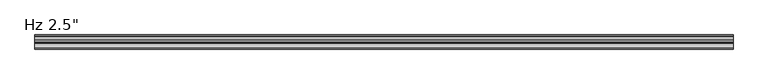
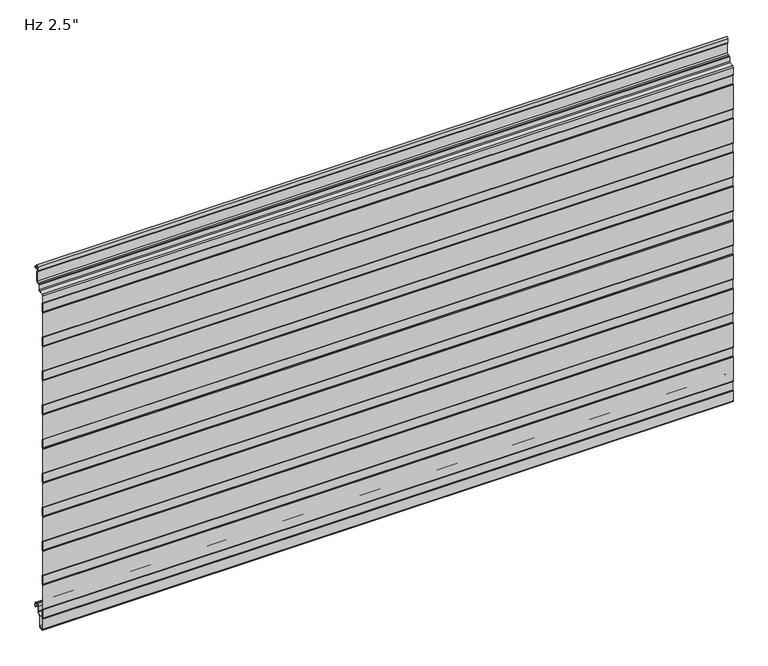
"""IFC4 building model written with IfcOpenShell, lengths in millimetres: plate geometry."""

import ifcopenshell
import ifcopenshell.guid

model = None  # the IFC model being written
_history = None  # IfcOwnerHistory: only IFC2X3 demands one
_inside = {}  # id of a spatial element -> (the spatial element, [elements in it])
_under = {}  # id of a project, library or spatial element -> (it, [spatial elements below it])
_declared = {}  # id of a project -> (the project, [libraries it declares])
_typed = {}  # id of a type object -> (the type object, [elements of that type])
_made_of = {}  # id of a material, layer set ... -> (it, [elements and type objects made of it])


def new_model(schema):
    """Start an empty IFC model of exactly this schema.

    Asked for "IFC4X3", IfcOpenShell would pick the latest addendum, in which some entities
    have other attributes; the version numbers below select the first issue.
    IFC2X3 requires an IfcOwnerHistory on every rooted entity: one is made here for all.
    """
    global model, _history
    if schema == "IFC4X3":
        model = ifcopenshell.file(schema_version=(4, 3, 0, 0))
    else:
        model = ifcopenshell.file(schema=schema)
    _inside.clear()
    _under.clear()
    _declared.clear()
    _typed.clear()
    _made_of.clear()
    _history = None
    if model.schema == "IFC2X3":
        org = make("IfcOrganization", Name="unknown")
        user = make(
            "IfcPersonAndOrganization",
            ThePerson=make("IfcPerson", FamilyName="unknown"),
            TheOrganization=org,
        )
        app = make(
            "IfcApplication",
            ApplicationDeveloper=org,
            Version="unknown",
            ApplicationFullName="unknown",
            ApplicationIdentifier="unknown",
        )
        _history = make(
            "IfcOwnerHistory",
            OwningUser=user,
            OwningApplication=app,
            ChangeAction="ADDED",
            CreationDate=0,
        )
    return model


def make(cls, **values):
    """One entity of the class cls with the attributes given. An attribute that is None is left unset."""
    return model.create_entity(
        cls, **{name: value for name, value in values.items() if value is not None}
    )


def rooted(cls, **values):
    """An entity with a GlobalId (a new one), such as an element, a storey or a relation."""
    return make(cls, GlobalId=ifcopenshell.guid.new(), OwnerHistory=_history, **values)


def si_unit(unit_type, name, prefix=None):
    """IfcSIUnit, for example si_unit("LENGTHUNIT", "METRE", prefix="MILLI")."""
    return make("IfcSIUnit", UnitType=unit_type, Prefix=prefix, Name=name)


def assignment(units):
    """IfcUnitAssignment: the units of a project."""
    return None if units is None else make("IfcUnitAssignment", Units=units)


def point(xyz):
    """IfcCartesianPoint."""
    return None if xyz is None else make("IfcCartesianPoint", Coordinates=xyz)


def direction(xyz):
    """IfcDirection."""
    return None if xyz is None else make("IfcDirection", DirectionRatios=xyz)


def frame(location, z_axis=None, x_axis=None):
    """IfcAxis2Placement3D, a coordinate frame: its origin and axes. An axis left out is left unset."""
    return make(
        "IfcAxis2Placement3D",
        Location=point(location),
        Axis=direction(z_axis),
        RefDirection=direction(x_axis),
    )


def frame_2d(location, x_axis=None):
    """IfcAxis2Placement2D, a coordinate frame in the plane: its origin and x axis."""
    return make(
        "IfcAxis2Placement2D", Location=point(location), RefDirection=direction(x_axis)
    )


def origin():
    """The frame at (0, 0, 0) with its axes left unset."""
    return frame((0.0, 0.0, 0.0))


def place(relative_to, where):
    """IfcLocalPlacement: puts the frame where relative to a parent placement (None: the world)."""
    return make(
        "IfcLocalPlacement", PlacementRelTo=relative_to, RelativePlacement=where
    )


def context(
    kind, dimensions, precision=None, world=None, true_north=None, identifier=None
):
    """IfcGeometricRepresentationContext, for example the 3D "Model" context."""
    return make(
        "IfcGeometricRepresentationContext",
        ContextIdentifier=identifier,
        ContextType=kind,
        CoordinateSpaceDimension=dimensions,
        Precision=precision,
        WorldCoordinateSystem=world,
        TrueNorth=true_north,
    )


def project(units=None, contexts=None):
    """IfcProject with its units and contexts."""
    return rooted(
        "IfcProject",
        Name="project",
        RepresentationContexts=contexts,
        UnitsInContext=assignment(units),
    )


def spatial(cls, under=None, at=None, **own):
    """A site, building, storey or space (cls), placed at a placement, below another one or the project."""
    s = rooted(cls, ObjectPlacement=at, **own)
    if under is not None:
        _under.setdefault(under.id(), (under, []))[1].append(s)
    return s


def polyline(points):
    """IfcPolyline through the points."""
    return make("IfcPolyline", Points=[point(p) for p in points])


def circle_curve(where, radius):
    """IfcCircle in the frame where."""
    return make("IfcCircle", Position=where, Radius=radius)


def trimmed(basis, trim1, trim2, sense, master):
    """IfcTrimmedCurve: the piece of a basis curve between two trims."""
    return make(
        "IfcTrimmedCurve",
        BasisCurve=basis,
        Trim1=trim1,
        Trim2=trim2,
        SenseAgreement=sense,
        MasterRepresentation=master,
    )


def segment(curve, same_sense, transition):
    """IfcCompositeCurveSegment."""
    return make(
        "IfcCompositeCurveSegment",
        Transition=transition,
        SameSense=same_sense,
        ParentCurve=curve,
    )


def composite_curve(segments, self_intersect=None):
    """IfcCompositeCurve: segments joined end to end."""
    return make("IfcCompositeCurve", Segments=segments, SelfIntersect=self_intersect)


def outline(outer, holes=None, kind="AREA"):
    """IfcArbitraryClosedProfileDef: a profile drawn as a closed curve; with holes, ...WithVoids."""
    if holes is None:
        return make("IfcArbitraryClosedProfileDef", ProfileType=kind, OuterCurve=outer)
    return make(
        "IfcArbitraryProfileDefWithVoids",
        ProfileType=kind,
        OuterCurve=outer,
        InnerCurves=holes,
    )


def extrude(swept, where, along, depth):
    """IfcExtrudedAreaSolid: the profile swept, set in the frame where, extruded along a direction by depth."""
    return make(
        "IfcExtrudedAreaSolid",
        SweptArea=swept,
        Position=where,
        ExtrudedDirection=direction(along),
        Depth=depth,
    )


def shape(context_of_items, identifier, shape_type, items):
    """IfcShapeRepresentation: the items that make up one representation, for example the "Body"."""
    return make(
        "IfcShapeRepresentation",
        ContextOfItems=context_of_items,
        RepresentationIdentifier=identifier,
        RepresentationType=shape_type,
        Items=items,
    )


def source(mapping_origin, context_of_items, identifier, shape_type, items):
    """IfcRepresentationMap: a shape defined once, which mapped items show again and again."""
    return make(
        "IfcRepresentationMap",
        MappingOrigin=mapping_origin,
        MappedRepresentation=shape(context_of_items, identifier, shape_type, items),
    )


def transform(
    local_origin,
    x_axis=None,
    y_axis=None,
    z_axis=None,
    scale=None,
    scale2=None,
    scale3=None,
    uniform=True,
):
    """IfcCartesianTransformationOperator3D, or its non-uniform kind. x_axis, y_axis, z_axis: its Axis1, 2, 3."""
    if uniform:
        return make(
            "IfcCartesianTransformationOperator3D",
            Axis1=direction(x_axis),
            Axis2=direction(y_axis),
            LocalOrigin=point(local_origin),
            Scale=scale,
            Axis3=direction(z_axis),
        )
    return make(
        "IfcCartesianTransformationOperator3DnonUniform",
        Axis1=direction(x_axis),
        Axis2=direction(y_axis),
        LocalOrigin=point(local_origin),
        Scale=scale,
        Axis3=direction(z_axis),
        Scale2=scale2,
        Scale3=scale3,
    )


def mapped(mapping_source, mapping_target):
    """IfcMappedItem: shows the shape of a source again, moved by a transform."""
    return make(
        "IfcMappedItem", MappingSource=mapping_source, MappingTarget=mapping_target
    )


def made_of(thing, what):
    """Note that an element or type object is made of a material, layer set ...; save() writes the relation."""
    if what is not None:
        _made_of.setdefault(what.id(), (what, []))[1].append(thing)
    return thing


def element(
    cls,
    number,
    at=None,
    inside=None,
    cuts=None,
    type_object=None,
    material=None,
    context=None,
    identifier="Body",
    shape_type=None,
    held_by="IfcProductDefinitionShape",
    body=None,
    shapes=None,
    **own,
):
    """One element of the class cls, such as IfcWall. Its Tag is "e" and its number.

    at: its placement. inside: the storey or other place that contains it. cuts: it is an
    opening in that element (IfcRelVoidsElement). A single representation is given by context,
    identifier, shape_type and body (its items); several are given by shapes. held_by: the class
    of the entity that holds the representations. save() writes the other relations.
    """
    e = rooted(cls, Tag="e%d" % number, ObjectPlacement=at, **own)
    if body is not None:
        shapes = [shape(context, identifier, shape_type, body)]
    if shapes is not None:
        e.Representation = make(held_by, Representations=shapes)
    if inside is not None:
        _inside.setdefault(inside.id(), (inside, []))[1].append(e)
    if cuts is not None:
        rooted(
            "IfcRelVoidsElement", RelatingBuildingElement=cuts, RelatedOpeningElement=e
        )
    if type_object is not None:
        _typed.setdefault(type_object.id(), (type_object, []))[1].append(e)
    return made_of(e, material)


def aggregate(whole, parts):
    """IfcRelAggregates: a whole, such as a stair, and the parts it consists of."""
    return rooted("IfcRelAggregates", RelatingObject=whole, RelatedObjects=parts)


def save(model, path):
    """Write the relations noted so far, then the file.

    IfcRelAggregates (storeys below a building ...), IfcRelContainedInSpatialStructure (elements
    in a storey), IfcRelDefinesByType, IfcRelAssociatesMaterial and IfcRelDeclares: one each for
    every whole, place, type object, material and project.
    """
    for whole, parts in _under.values():
        aggregate(whole, parts)
    for where, things in _inside.values():
        rooted(
            "IfcRelContainedInSpatialStructure",
            RelatedElements=things,
            RelatingStructure=where,
        )
    for kind, things in _typed.values():
        rooted("IfcRelDefinesByType", RelatedObjects=things, RelatingType=kind)
    for what, things in _made_of.values():
        rooted("IfcRelAssociatesMaterial", RelatedObjects=things, RelatingMaterial=what)
    for by, libraries in _declared.values():
        rooted("IfcRelDeclares", RelatingContext=by, RelatedDefinitions=libraries)
    model.write(path)


def plate_3c53f4bd(model_context):
    return source(origin(), model_context, "Body", "SweptSolid", [
        extrude(outline(composite_curve([segment(trimmed(circle_curve(frame_2d((-62.0998717, -10.6415934)), 1.3998661), [point((-63.4997378, -10.6415934))], [point((-63.0324955, -9.5976403))], False, "CARTESIAN"), True, "CONTINUOUS"), segment(polyline([(-63.0324955, -9.5976403), (-62.2997693, -8.8649141), (-62.2997693, 10.0260713), (-63.0327349, 10.7590369)]), True, "CONTINUOUS"), segment(trimmed(circle_curve(frame_2d((-62.1000237, 11.8030877)), 1.3999972), [point((-63.0327349, 10.7590369))], [point((-63.5, 11.810741))], False, "CARTESIAN"), True, "CONTINUOUS"), segment(polyline([(-63.5, 11.810741), (-63.5, 65.5582542)]), True, "CONTINUOUS"), segment(trimmed(circle_curve(frame_2d((-62.1000028, 65.5582542)), 1.3999972), [point((-63.5, 65.5582542))], [point((-63.032714, 66.602305))], False, "CARTESIAN"), True, "CONTINUOUS"), segment(polyline([(-63.032714, 66.602305), (-62.2997693, 67.3352497), (-62.2997693, 86.2259189), (-63.0327349, 86.9588845)]), True, "CONTINUOUS"), segment(trimmed(circle_curve(frame_2d((-62.1000237, 88.0029353)), 1.3999972), [point((-63.0327349, 86.9588845))], [point((-63.5, 88.0105886))], False, "CARTESIAN"), True, "CONTINUOUS"), segment(polyline([(-63.5, 88.0105886), (-63.5, 141.7581018)]), True, "CONTINUOUS"), segment(trimmed(circle_curve(frame_2d((-62.1000028, 141.7581018)), 1.3999972), [point((-63.5, 141.7581018))], [point((-63.032714, 142.8021526))], False, "CARTESIAN"), True, "CONTINUOUS"), segment(polyline([(-63.032714, 142.8021526), (-62.2997693, 143.5350973), (-62.2997693, 162.4257665), (-63.0327349, 163.1587321)]), True, "CONTINUOUS"), segment(trimmed(circle_curve(frame_2d((-62.1000237, 164.2027829)), 1.3999972), [point((-63.0327349, 163.1587321))], [point((-63.5, 164.2104362))], False, "CARTESIAN"), True, "CONTINUOUS"), segment(polyline([(-63.5, 164.2104362), (-63.5, 217.9579494)]), True, "CONTINUOUS"), segment(trimmed(circle_curve(frame_2d((-62.1000028, 217.9579494)), 1.3999972), [point((-63.5, 217.9579494))], [point((-63.032714, 219.0020002))], False, "CARTESIAN"), True, "CONTINUOUS"), segment(polyline([(-63.032714, 219.0020002), (-62.2997693, 219.7349449), (-62.2997693, 238.6256141), (-63.0327349, 239.3585797)]), True, "CONTINUOUS"), segment(trimmed(circle_curve(frame_2d((-62.1000237, 240.4026305)), 1.3999972), [point((-63.0327349, 239.3585797))], [point((-63.5, 240.4102838))], False, "CARTESIAN"), True, "CONTINUOUS"), segment(polyline([(-63.5, 240.4102838), (-63.5, 294.157797)]), True, "CONTINUOUS"), segment(trimmed(circle_curve(frame_2d((-62.1000028, 294.157797)), 1.3999972), [point((-63.5, 294.157797))], [point((-63.032714, 295.2018478))], False, "CARTESIAN"), True, "CONTINUOUS"), segment(polyline([(-63.032714, 295.2018478), (-62.2997693, 295.9347925), (-62.2997693, 314.8254617), (-63.0327349, 315.5584273)]), True, "CONTINUOUS"), segment(trimmed(circle_curve(frame_2d((-62.1000237, 316.6024781)), 1.3999972), [point((-63.0327349, 315.5584273))], [point((-63.5, 316.6101314))], False, "CARTESIAN"), True, "CONTINUOUS"), segment(polyline([(-63.5, 316.6101314), (-63.5, 370.3576446)]), True, "CONTINUOUS"), segment(trimmed(circle_curve(frame_2d((-62.1000028, 370.3576446)), 1.3999972), [point((-63.5, 370.3576446))], [point((-63.032714, 371.4016954))], False, "CARTESIAN"), True, "CONTINUOUS"), segment(polyline([(-63.032714, 371.4016954), (-62.2997693, 372.1346401), (-62.2997693, 391.0253093), (-63.0327349, 391.7582749)]), True, "CONTINUOUS"), segment(trimmed(circle_curve(frame_2d((-62.1000237, 392.8023257)), 1.3999972), [point((-63.0327349, 391.7582749))], [point((-63.5, 392.809979))], False, "CARTESIAN"), True, "CONTINUOUS"), segment(polyline([(-63.5, 392.809979), (-63.5, 446.5574922)]), True, "CONTINUOUS"), segment(trimmed(circle_curve(frame_2d((-62.1000028, 446.5574922)), 1.3999972), [point((-63.5, 446.5574922))], [point((-63.032714, 447.601543))], False, "CARTESIAN"), True, "CONTINUOUS"), segment(polyline([(-63.032714, 447.601543), (-62.2997693, 448.3344877), (-62.2997693, 467.2251569), (-63.0327349, 467.9581225)]), True, "CONTINUOUS"), segment(trimmed(circle_curve(frame_2d((-62.1000237, 469.0021733)), 1.3999972), [point((-63.0327349, 467.9581225))], [point((-63.5, 469.0098266))], False, "CARTESIAN"), True, "CONTINUOUS"), segment(polyline([(-63.5, 469.0098266), (-63.5, 522.7573398)]), True, "CONTINUOUS"), segment(trimmed(circle_curve(frame_2d((-62.1000028, 522.7573398)), 1.3999972), [point((-63.5, 522.7573398))], [point((-63.032714, 523.8013906))], False, "CARTESIAN"), True, "CONTINUOUS"), segment(polyline([(-63.032714, 523.8013906), (-62.2997693, 524.5343353), (-62.2997693, 543.4250045), (-63.0327349, 544.1579701)]), True, "CONTINUOUS"), segment(trimmed(circle_curve(frame_2d((-62.1000237, 545.2020209)), 1.3999972), [point((-63.0327349, 544.1579701))], [point((-63.5, 545.2096742))], False, "CARTESIAN"), True, "CONTINUOUS"), segment(polyline([(-63.5, 545.2096742), (-63.5, 598.9571874)]), True, "CONTINUOUS"), segment(trimmed(circle_curve(frame_2d((-62.1000028, 598.9571874)), 1.3999972), [point((-63.5, 598.9571874))], [point((-63.032714, 600.0012382))], False, "CARTESIAN"), True, "CONTINUOUS"), segment(polyline([(-63.032714, 600.0012382), (-62.2997693, 600.7341829), (-62.2997693, 619.6248521), (-63.0327349, 620.3578177)]), True, "CONTINUOUS"), segment(trimmed(circle_curve(frame_2d((-62.1000237, 621.4018685)), 1.3999972), [point((-63.0327349, 620.3578177))], [point((-63.5, 621.4095218))], False, "CARTESIAN"), True, "CONTINUOUS"), segment(polyline([(-63.5, 621.4095218), (-63.5, 675.157035)]), True, "CONTINUOUS"), segment(trimmed(circle_curve(frame_2d((-62.1000028, 675.157035)), 1.3999972), [point((-63.5, 675.157035))], [point((-63.032714, 676.2010858))], False, "CARTESIAN"), True, "CONTINUOUS"), segment(polyline([(-63.032714, 676.2010858), (-62.2997693, 676.9340305), (-62.2997693, 695.8246997), (-63.0327349, 696.5576653)]), True, "CONTINUOUS"), segment(trimmed(circle_curve(frame_2d((-62.1000237, 697.6017161)), 1.3999972), [point((-63.0327349, 696.5576653))], [point((-63.4990984, 697.6525313))], False, "CARTESIAN"), True, "CONTINUOUS"), segment(polyline([(-63.4990984, 697.6525313), (-63.4990984, 713.5384359)]), True, "CONTINUOUS"), segment(trimmed(circle_curve(frame_2d((-60.5491043, 713.5384359)), 2.9499941), [point((-63.4990984, 713.5384359))], [point((-60.8062132, 716.4772044))], False, "CARTESIAN"), True, "CONTINUOUS"), segment(polyline([(-60.8062132, 716.4772044), (-52.3419168, 717.2177344)]), True, "CONTINUOUS"), segment(trimmed(circle_curve(frame_2d((-52.5188426, 719.2400056)), 2.0299959), [point((-52.3419168, 717.2177344))], [point((-50.4914567, 719.3429135))], True, "CARTESIAN"), True, "CONTINUOUS"), segment(polyline([(-50.4914567, 719.3429135), (-50.4914567, 729.4595941)]), True, "CONTINUOUS"), segment(trimmed(circle_curve(frame_2d((-48.5423033, 729.4595941)), 1.9491534), [point((-50.4914567, 729.4595941))], [point((-48.5423033, 731.4087475))], False, "CARTESIAN"), True, "CONTINUOUS"), segment(polyline([(-48.5423033, 731.4087475), (-45.4009036, 731.4087475)]), True, "CONTINUOUS"), segment(trimmed(circle_curve(frame_2d((-45.4009036, 734.4087415)), 2.999994), [point((-45.4009036, 731.4087475))], [point((-42.4009096, 734.4087415))], True, "CARTESIAN"), True, "CONTINUOUS"), segment(polyline([(-42.4009096, 734.4087415), (-42.4009096, 755.0122013), (-43.6467537, 755.7314897)]), True, "CONTINUOUS"), segment(trimmed(circle_curve(frame_2d((-42.9217552, 756.987224)), 1.4499971), [point((-43.6467537, 755.7314897))], [point((-44.3709833, 757.0344401))], False, "CARTESIAN"), True, "CONTINUOUS"), segment(polyline([(-44.3709833, 757.0344401), (-44.026075, 765.7463704)]), True, "CONTINUOUS"), segment(trimmed(circle_curve(frame_2d((-40.9266291, 765.6236622)), 3.1018739), [point((-44.026075, 765.7463704))], [point((-37.8275082, 765.7543204))], False, "CARTESIAN"), True, "CONTINUOUS"), segment(polyline([(-37.8275082, 765.7543204), (-37.5837214, 761.7587)]), True, "CONTINUOUS"), segment(trimmed(circle_curve(frame_2d((-36.7434917, 761.8099653)), 0.8417922), [point((-37.5837214, 761.7587))], [point((-36.7729389, 760.9686884))], True, "CARTESIAN"), True, "CONTINUOUS"), segment(polyline([(-36.7729389, 760.9686884), (-34.0025061, 760.9686884), (-34.0025061, 759.9686884), (-36.7870527, 759.9686884)]), True, "CONTINUOUS"), segment(trimmed(circle_curve(frame_2d((-36.7434917, 761.8099653)), 1.8417922), [point((-36.7870527, 759.9686884))], [point((-38.5818653, 761.6977997))], False, "CARTESIAN"), True, "CONTINUOUS"), segment(polyline([(-38.5818653, 761.6977997), (-38.8262802, 765.7037148)]), True, "CONTINUOUS"), segment(trimmed(circle_curve(frame_2d((-40.9266291, 765.6236622)), 2.1018739), [point((-38.8262802, 765.7037148))], [point((-43.0268578, 765.706811))], True, "CARTESIAN"), True, "CONTINUOUS"), segment(polyline([(-43.0268578, 765.706811), (-43.3821181, 756.7334028), (-41.4009096, 755.5895515), (-41.4009096, 734.4087415)]), True, "CONTINUOUS"), segment(trimmed(circle_curve(frame_2d((-45.4009036, 734.4087415)), 3.999994), [point((-41.4009096, 734.4087415))], [point((-45.4009036, 730.4087475))], False, "CARTESIAN"), True, "CONTINUOUS"), segment(polyline([(-45.4009036, 730.4087475), (-48.5423033, 730.4087475)]), True, "CONTINUOUS"), segment(trimmed(circle_curve(frame_2d((-48.5423033, 729.4595941)), 0.9491534), [point((-48.5423033, 730.4087475))], [point((-49.4914567, 729.4595941))], True, "CARTESIAN"), True, "CONTINUOUS"), segment(polyline([(-49.4914567, 729.4595941), (-49.4914567, 719.3657441)]), True, "CONTINUOUS"), segment(trimmed(circle_curve(frame_2d((-52.5188426, 719.2400056)), 3.0299959), [point((-49.4914567, 719.3657441))], [point((-52.254761, 716.2215397))], False, "CARTESIAN"), True, "CONTINUOUS"), segment(polyline([(-52.254761, 716.2215397), (-60.7190575, 715.4810097)]), True, "CONTINUOUS"), segment(trimmed(circle_curve(frame_2d((-60.5491043, 713.5384359)), 1.9499941), [point((-60.7190575, 715.4810097))], [point((-62.4990984, 713.5384359))], True, "CARTESIAN"), True, "CONTINUOUS"), segment(polyline([(-62.4990984, 713.5384359), (-62.4990984, 697.4396652), (-61.2997693, 696.2403361), (-61.2997693, 676.5209236), (-62.5, 675.3206929), (-62.5, 621.2405611), (-61.2997693, 620.0403304), (-61.2997693, 600.3209179), (-62.5, 599.1206872), (-62.5, 545.0405554), (-61.2997693, 543.8403247), (-61.2997693, 524.1209122), (-62.5, 522.9206815), (-62.5, 468.8405497), (-61.2997693, 467.640319), (-61.2997693, 447.9209065), (-62.5, 446.7206758), (-62.5, 392.640544), (-61.2997693, 391.4403133), (-61.2997693, 371.7209008), (-62.5, 370.5206701), (-62.5, 316.4405383), (-61.2997693, 315.2403076), (-61.2997693, 295.5208951), (-62.5, 294.3206644), (-62.5, 240.2405326), (-61.2997693, 239.0403019), (-61.2997693, 219.3208894), (-62.5, 218.1206587), (-62.5, 164.0405269), (-61.2997693, 162.8402962), (-61.2997693, 143.1208837), (-62.5, 141.920653), (-62.5, 87.8405213), (-61.2997693, 86.6402905), (-61.2997693, 66.920878), (-62.5, 65.7206473), (-62.5, 11.6405156), (-61.2997693, 10.4402849), (-61.2997693, -9.2791277), (-62.4997378, -10.4790962), (-62.4997378, -32.4521176)]), True, "CONTINUOUS"), segment(trimmed(circle_curve(frame_2d((-59.9294985, -32.4521176)), 2.5702393), [point((-62.4997378, -32.4521176))], [point((-59.7054129, -35.0125699))], True, "CARTESIAN"), True, "CONTINUOUS"), segment(polyline([(-59.7054129, -35.0125699), (-54.723592, -34.5765709)]), True, "CONTINUOUS"), segment(trimmed(circle_curve(frame_2d((-55.2049826, -31.9198392)), 2.6999926), [point((-54.723592, -34.5765709))], [point((-52.50499, -31.9198392))], True, "CARTESIAN"), True, "CONTINUOUS"), segment(polyline([(-52.50499, -31.9198392), (-52.50499, -9.8247096), (-47.0029189, -4.3226385)]), True, "CONTINUOUS"), segment(trimmed(circle_curve(frame_2d((-48.2049966, -3.1205608)), 1.6999946), [point((-47.0029189, -4.3226385))], [point((-46.505002, -3.1205608))], True, "CARTESIAN"), True, "CONTINUOUS"), segment(polyline([(-46.505002, -3.1205608), (-46.505002, 8.6903283)]), True, "CONTINUOUS"), segment(trimmed(circle_curve(frame_2d((-43.1550067, 8.6903283)), 3.3499953), [point((-46.505002, 8.6903283))], [point((-43.1550067, 12.0403236))], False, "CARTESIAN"), True, "CONTINUOUS"), segment(polyline([(-43.1550067, 12.0403236), (-38.7550155, 12.0403236)]), True, "CONTINUOUS"), segment(trimmed(circle_curve(frame_2d((-38.7550155, 8.6903283)), 3.3499953), [point((-38.7550155, 12.0403236))], [point((-35.4050202, 8.6903283))], False, "CARTESIAN"), True, "CONTINUOUS"), segment(polyline([(-35.4050202, 8.6903283), (-35.4050202, 5.9912173), (-34.0065413, 5.9912173), (-34.0065413, 2.2328239)]), True, "CONTINUOUS"), segment(trimmed(circle_curve(frame_2d((-35.206538, 2.2313092)), 1.1999976), [point((-34.0065413, 2.2328239))], [point((-35.1760161, 1.0316999))], False, "CARTESIAN"), True, "CONTINUOUS"), segment(trimmed(circle_curve(frame_2d((-35.206538, 2.2313092)), 1.1999976), [point((-35.1760161, 1.0316999))], [point((-36.4050202, 2.1710221))], False, "CARTESIAN"), True, "CONTINUOUS"), segment(polyline([(-36.4050202, 2.1710221), (-36.4050202, 8.6903283)]), True, "CONTINUOUS"), segment(trimmed(circle_curve(frame_2d((-38.7550155, 8.6903283)), 2.3499953), [point((-36.4050202, 8.6903283))], [point((-38.7550155, 11.0403236))], True, "CARTESIAN"), True, "CONTINUOUS"), segment(polyline([(-38.7550155, 11.0403236), (-43.1550067, 11.0403236)]), True, "CONTINUOUS"), segment(trimmed(circle_curve(frame_2d((-43.1550067, 8.6903283)), 2.3499953), [point((-43.1550067, 11.0403236))], [point((-45.505002, 8.6903283))], True, "CARTESIAN"), True, "CONTINUOUS"), segment(polyline([(-45.505002, 8.6903283), (-45.505002, -3.1205608)]), True, "CONTINUOUS"), segment(trimmed(circle_curve(frame_2d((-48.2049966, -3.1205608)), 2.6999946), [point((-45.505002, -3.1205608))], [point((-46.2958121, -5.0297453))], False, "CARTESIAN"), True, "CONTINUOUS"), segment(polyline([(-46.2958121, -5.0297453), (-51.1242296, -9.8581627)]), True, "CONTINUOUS"), segment(trimmed(circle_curve(frame_2d((-50.2049926, -10.7773997)), 1.2999974), [point((-51.1242296, -9.8581627))], [point((-51.50499, -10.7773997))], True, "CARTESIAN"), True, "CONTINUOUS"), segment(polyline([(-51.50499, -10.7773997), (-51.50499, -31.9198392)]), True, "CONTINUOUS"), segment(trimmed(circle_curve(frame_2d((-55.2049826, -31.9198392)), 3.6999926), [point((-51.50499, -31.9198392))], [point((-54.5941815, -35.5690675))], False, "CARTESIAN"), True, "CONTINUOUS"), segment(polyline([(-54.5941815, -35.5690675), (-59.6182281, -36.008762)]), True, "CONTINUOUS"), segment(trimmed(circle_curve(frame_2d((-59.9294985, -32.4521176)), 3.5702393), [point((-59.6182281, -36.008762))], [point((-63.4997378, -32.4521176))], False, "CARTESIAN"), True, "CONTINUOUS"), segment(polyline([(-63.4997378, -32.4521176), (-63.4997378, -10.6415934)]), True, "CONTINUOUS")], self_intersect=False)), frame((-730.0, 0.0, 0.0), z_axis=(1.0, 0.0, 0.0), x_axis=(0.0, 1.0, 0.0)), (0.0, 0.0, 1.0), 1460.0),
    ])


if __name__ == "__main__":
    model = new_model("IFC4")
    model_context = context("Model", 3, world=origin())
    ifc_project = project(units=[si_unit("LENGTHUNIT", "METRE", prefix="MILLI")], contexts=[model_context])
    site = spatial("IfcSite", under=ifc_project)
    building = spatial("IfcBuilding", under=site)
    placement = place(None, origin())
    plate_shape = plate_3c53f4bd(model_context)
    element("IfcPlate", 1, ObjectType="KIP-30-Karrier-KP-R19-CP-Hz-SL_SL : Hz 2.5\"", at=placement, inside=building, context=model_context, shape_type="MappedRepresentation", body=[
        mapped(plate_shape, transform((0.0, 0.0, 0.0), x_axis=(1.0, 0.0, 0.0), y_axis=(0.0, 1.0, 0.0), z_axis=(0.0, 0.0, 1.0))),
    ])
    save(model, "model.ifc")
